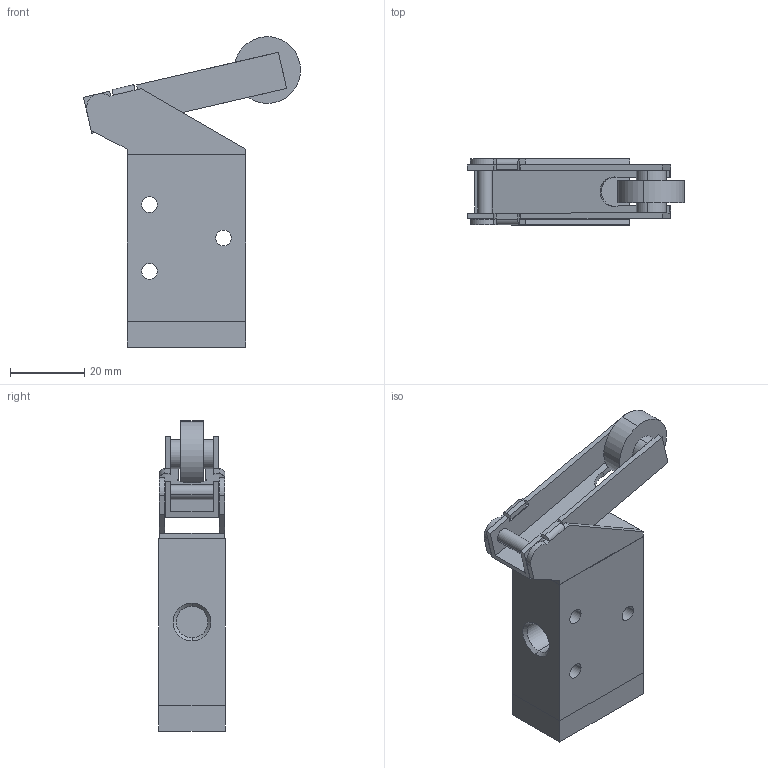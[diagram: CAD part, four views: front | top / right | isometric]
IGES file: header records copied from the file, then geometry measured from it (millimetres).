
Global section: file name: No Iges File Name specified; native system: AutoDesk Inventor R11.0; preprocessor: AutoDesk Inventor Iges Exporter R11.0; author: No Author specified; organization: No Organization specified; date: 20061219.113749; units: millimetre
Bounding box: 58.61 x 18 x 83.84 mm (x, y, z)
Volume: 33977.3 mm3; surface area: 15230.3 mm2
Topology: 3 solids, 3 shells, 110 faces, 264 edges, 168 vertices
Faces by surface type: plane 64, bspline 27, cylinder 12, revolution 7
